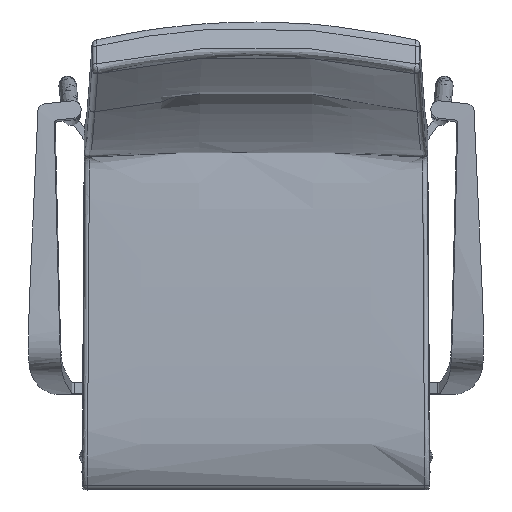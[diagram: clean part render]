
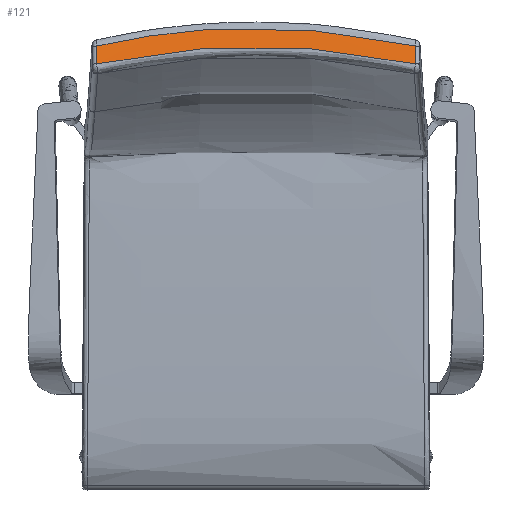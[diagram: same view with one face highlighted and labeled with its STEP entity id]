
A CAD part, top view. The second image highlights one B-rep face of the part: STEP entity #121.
In plain terms, the highlighted free-form (B-spline) face has degree [1, 3] with [2, 9] control points.
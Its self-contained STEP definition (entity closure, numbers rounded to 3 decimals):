
#121=ADVANCED_FACE('',(#230),#1425,.T.);
#230=FACE_OUTER_BOUND('',#339,.T.);
#339=EDGE_LOOP('',(#750,#751,#752,#753));
#750=ORIENTED_EDGE('',*,*,#1075,.T.);
#751=ORIENTED_EDGE('',*,*,#1104,.F.);
#752=ORIENTED_EDGE('',*,*,#1076,.F.);
#753=ORIENTED_EDGE('',*,*,#1095,.F.);
#1075=EDGE_CURVE('',#1375,#1378,#1642,.T.);
#1076=EDGE_CURVE('',#1376,#1377,#1643,.T.);
#1095=EDGE_CURVE('',#1375,#1376,#1662,.T.);
#1104=EDGE_CURVE('',#1377,#1378,#1671,.T.);
#1375=VERTEX_POINT('',#10388);
#1376=VERTEX_POINT('',#10389);
#1377=VERTEX_POINT('',#10390);
#1378=VERTEX_POINT('',#10391);
#1425=B_SPLINE_SURFACE_WITH_KNOTS('',1,3,((#6937,#6938,#6939,#6940,#6941,
#6942,#6943,#6944,#6945),(#6946,#6947,#6948,#6949,#6950,#6951,#6952,#6953,
#6954)),.UNSPECIFIED.,.F.,.F.,.F.,(2,2),(4,1,1,1,1,1,4),(0.,1.),(0.,71.501,
143.002,214.503,286.004,357.505,429.006),
 .UNSPECIFIED.);
#1642=B_SPLINE_CURVE_WITH_KNOTS('',3,(#10487,#10488,#10489,#10490,#10491),
 .UNSPECIFIED.,.F.,.F.,(4,1,4),(3.58,206.632,409.684),
 .UNSPECIFIED.);
#1643=B_SPLINE_CURVE_WITH_KNOTS('',3,(#10492,#10493,#10494,#10495,#10496),
 .UNSPECIFIED.,.F.,.F.,(4,1,4),(8.561,211.488,414.416),
 .UNSPECIFIED.);
#1662=B_SPLINE_CURVE_WITH_KNOTS('',1,(#10710,#10711),.UNSPECIFIED.,.F.,
 .F.,(2,2),(-1.451,22.029),.UNSPECIFIED.);
#1671=B_SPLINE_CURVE_WITH_KNOTS('',1,(#10744,#10745),.UNSPECIFIED.,.F.,
 .F.,(2,2),(1.389,24.87),.UNSPECIFIED.);
#6937=CARTESIAN_POINT('',(207.056,250.774,887.888));
#6938=CARTESIAN_POINT('',(184.503,256.026,886.12));
#6939=CARTESIAN_POINT('',(138.93,264.817,883.161));
#6940=CARTESIAN_POINT('',(69.692,272.76,880.488));
#6941=CARTESIAN_POINT('',(0.,275.414,879.595));
#6942=CARTESIAN_POINT('',(-69.692,272.76,880.488));
#6943=CARTESIAN_POINT('',(-138.931,264.816,883.161));
#6944=CARTESIAN_POINT('',(-184.503,256.026,886.12));
#6945=CARTESIAN_POINT('',(-207.056,250.774,887.888));
#6946=CARTESIAN_POINT('',(207.002,292.855,875.035));
#6947=CARTESIAN_POINT('',(184.455,298.158,873.441));
#6948=CARTESIAN_POINT('',(138.893,307.034,870.772));
#6949=CARTESIAN_POINT('',(69.673,315.055,868.36));
#6950=CARTESIAN_POINT('',(0.,317.735,867.555));
#6951=CARTESIAN_POINT('',(-69.673,315.055,868.36));
#6952=CARTESIAN_POINT('',(-138.894,307.034,870.772));
#6953=CARTESIAN_POINT('',(-184.455,298.158,873.441));
#6954=CARTESIAN_POINT('',(-207.002,292.855,875.035));
#10388=CARTESIAN_POINT('',(201.131,284.418,877.607));
#10389=CARTESIAN_POINT('',(201.136,261.955,884.442));
#10390=CARTESIAN_POINT('',(-201.136,261.955,884.442));
#10391=CARTESIAN_POINT('',(-201.131,284.418,877.607));
#10487=CARTESIAN_POINT('',(201.131,284.418,877.607));
#10488=CARTESIAN_POINT('',(135.332,299.555,872.931));
#10489=CARTESIAN_POINT('',(0.,314.899,868.2));
#10490=CARTESIAN_POINT('',(-135.332,299.555,872.931));
#10491=CARTESIAN_POINT('',(-201.131,284.418,877.607));
#10492=CARTESIAN_POINT('',(201.136,261.955,884.442));
#10493=CARTESIAN_POINT('',(135.221,276.317,879.714));
#10494=CARTESIAN_POINT('',(0.,290.854,874.903));
#10495=CARTESIAN_POINT('',(-135.221,276.317,879.714));
#10496=CARTESIAN_POINT('',(-201.136,261.955,884.442));
#10710=CARTESIAN_POINT('',(201.131,284.418,877.607));
#10711=CARTESIAN_POINT('',(201.136,261.955,884.442));
#10744=CARTESIAN_POINT('',(-201.136,261.955,884.442));
#10745=CARTESIAN_POINT('',(-201.131,284.418,877.607));
